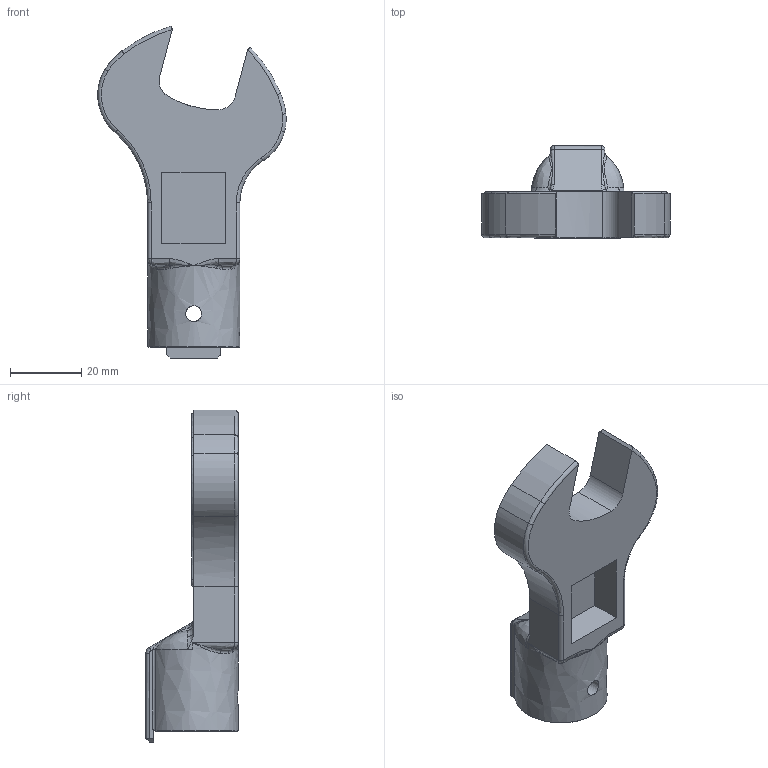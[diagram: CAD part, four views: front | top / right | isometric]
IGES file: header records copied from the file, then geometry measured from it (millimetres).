
Global section: file name: SH19DX22; native system: Autodesk Inventor 2016; preprocessor: unknown; author: Q600; date: 20151029.180100; units: millimetre
Bounding box: 53.06 x 26 x 93.51 mm (x, y, z)
Volume: 29228.2 mm3; surface area: 11299.3 mm2
Topology: 1 solids, 1 shells, 117 faces, 320 edges, 196 vertices
Faces by surface type: bspline 117
